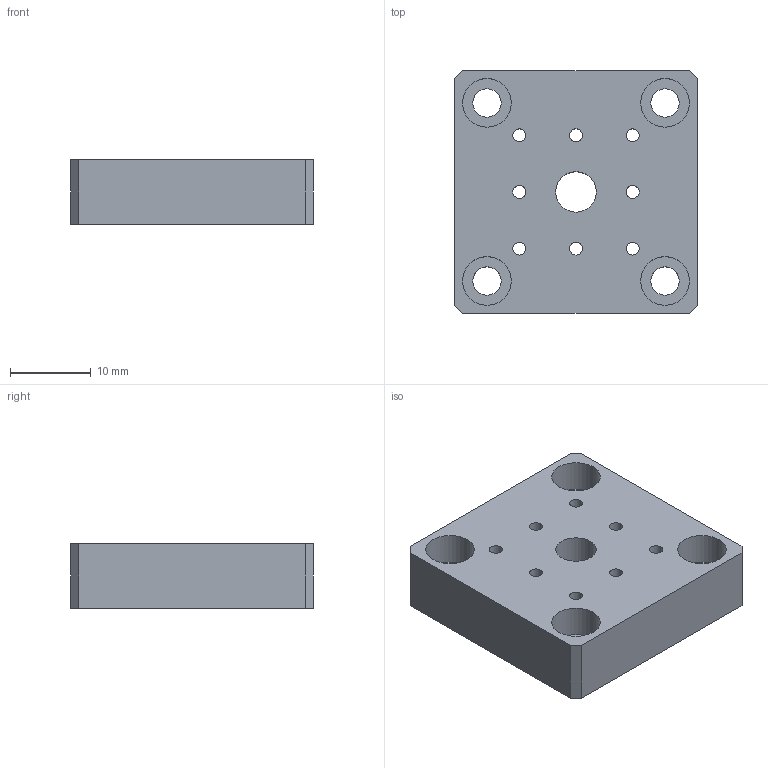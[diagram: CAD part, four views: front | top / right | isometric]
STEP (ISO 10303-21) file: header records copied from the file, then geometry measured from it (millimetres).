
FILE_DESCRIPTION( ( 'STEP AP203' ), '1' );
FILE_NAME( 'C:/3D-Trans/3D_A49-2+071218.stp', '2007-12-18T05:03:24', ( ' ' ), ( ' ' ), 'XStep 1.0', ' ', ' ' );
FILE_SCHEMA( ( 'CONFIG_CONTROL_DESIGN' ) );
Length unit declared in the file: millimetre
Products named in the file (1): 1
Bounding box: 30 x 30 x 8 mm (x, y, z)
Volume: 6291.9 mm3; surface area: 3513.7 mm2
Topology: 1 solids, 1 shells, 31 faces, 79 edges, 54 vertices
Faces by surface type: cylinder 17, plane 14
Full cylindrical faces by diameter (mm): 1.6 x8, 3.5 x4, 5 x1, 6 x4
Entity records: 934 total; most frequent: DIRECTION 156, CARTESIAN_POINT 140, ORIENTED_EDGE 116, EDGE_LOOP 78, AXIS2_PLACEMENT_3D 66, EDGE_CURVE 58, VERTEX_POINT 50, FACE_OUTER_BOUND 48
